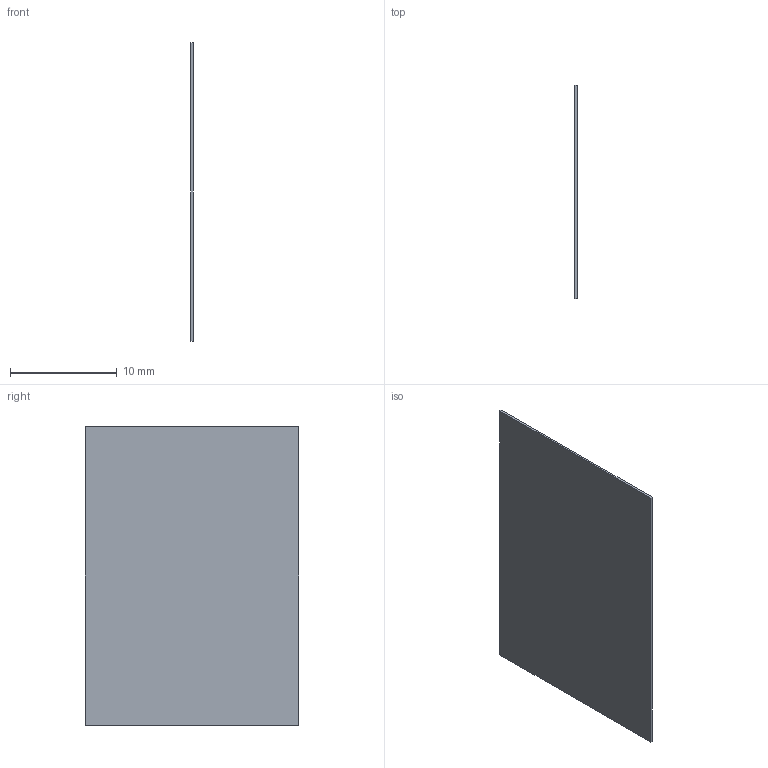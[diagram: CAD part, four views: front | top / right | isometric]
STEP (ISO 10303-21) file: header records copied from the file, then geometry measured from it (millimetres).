
FILE_DESCRIPTION(('Open CASCADE Model'),'2;1');
FILE_NAME('Open CASCADE Shape Model','2026-11-23T18:10:06',('Author'),( 'Open CASCADE'),'Open CASCADE STEP processor 8.0','build123d', 'Unknown');
FILE_SCHEMA(('AUTOMOTIVE_DESIGN { 1 0 10303 214 1 1 1 1 }'));
Length unit declared in the file: millimetre
Products named in the file (2): =>[0:1:1:2]; COMPOUND
Assembly tree (1 placements, depth 2):
  =>[0:1:1:2]
    COMPOUND
Bounding box: 0.2 x 20 x 28 mm (x, y, z)
Volume: 112 mm3; surface area: 1139.2 mm2
Topology: 1 solids, 1 shells, 6 faces, 12 edges, 8 vertices
Faces by surface type: plane 6
Entity records: 340 total; most frequent: CARTESIAN_POINT 52, DIRECTION 52, LINE 36, VECTOR 36, ORIENTED_EDGE 24, PCURVE 24, DEFINITIONAL_REPRESENTATION 24, EDGE_CURVE 12
